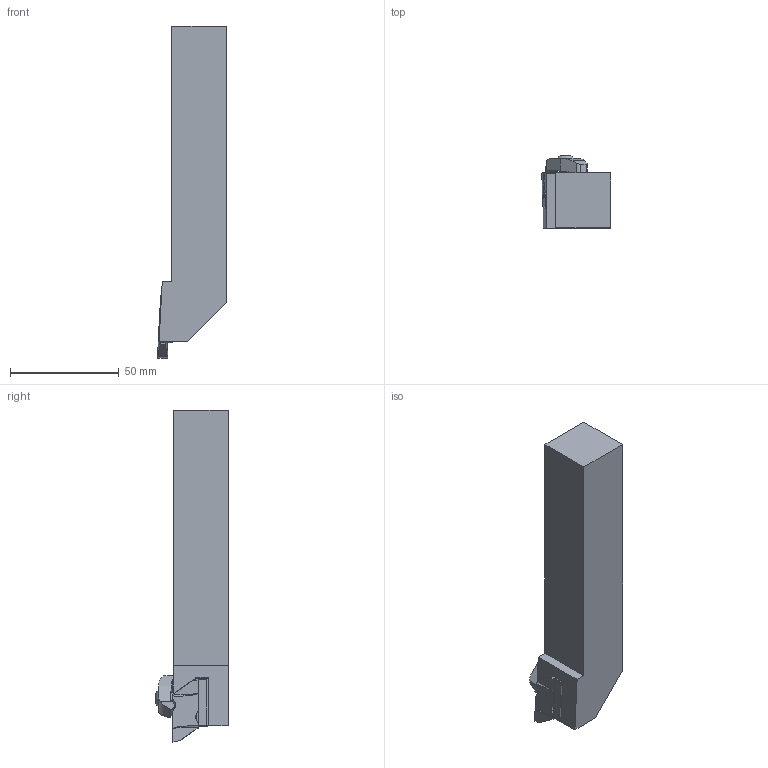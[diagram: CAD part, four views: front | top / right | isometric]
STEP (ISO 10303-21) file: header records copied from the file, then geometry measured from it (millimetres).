
FILE_DESCRIPTION(/* description */ (''),/* implementation_level */ '2;1');
FILE_NAME(/* name */ 'NSR164D_GTM.stp',/* time_stamp */ '2016-04-14T07:43:31+01:00',/* author */ (''),/* organization */ (''),/* preprocessor_version */ 'ST-DEVELOPER v15',/* originating_system */ 'SIEMENS PLM Software NX 9.0',/* authorisation */ '');
FILE_SCHEMA (('AUTOMOTIVE_DESIGN { 1 0 10303 214 3 1 1 1 }'));
Length unit declared in the file: millimetre
Products named in the file (1): NSR164D_GTM
Bounding box: 31.75 x 33.34 x 152.4 mm (x, y, z)
Volume: 92944 mm3; surface area: 18728.5 mm2
Topology: 5 solids, 6 shells, 169 faces, 464 edges, 308 vertices
Faces by surface type: plane 91, cylinder 69, bspline 5, cone 4
Full cylindrical faces by diameter (mm): 2.845 x1, 3.175 x1, 4.229 x1, 4.826 x1, 5.791 x1, 8.992 x1, 10.008 x1
Entity records: 5529 total; most frequent: CARTESIAN_POINT 1120, DIRECTION 923, ORIENTED_EDGE 890, EDGE_CURVE 445, AXIS2_PLACEMENT_3D 325, VERTEX_POINT 302, LINE 273, VECTOR 273
